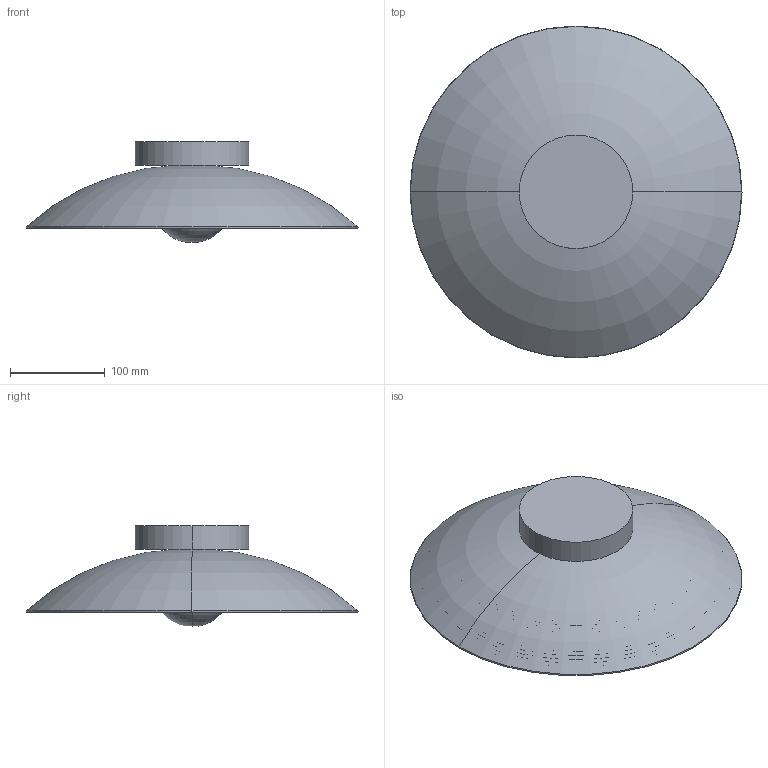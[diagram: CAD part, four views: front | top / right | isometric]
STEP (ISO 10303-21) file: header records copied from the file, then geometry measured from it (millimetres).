
FILE_DESCRIPTION (( 'STEP AP214' ), '1' );
FILE_NAME ('DANA_A1098_35.STEP', '2024-12-19T15:24:08', ( '' ), ( '' ), 'SwSTEP 2.0', 'SolidWorks 2018', '' );
FILE_SCHEMA (( 'AUTOMOTIVE_DESIGN' ));
Length unit declared in the file: millimetre
Products named in the file (1): DANA_A1098_35
Bounding box: 350.65 x 350.65 x 106.58 mm (x, y, z)
Volume: 947734.4 mm3; surface area: 331867.5 mm2
Topology: 2 solids, 2 shells, 269 faces, 538 edges, 270 vertices
Faces by surface type: torus 258, cone 6, plane 3, cylinder 2
Entity records: 7013 total; most frequent: DIRECTION 1600, CARTESIAN_POINT 1074, ORIENTED_EDGE 1068, AXIS2_PLACEMENT_3D 796, EDGE_CURVE 534, CIRCLE 526, VERTEX_POINT 270, EDGE_LOOP 270
